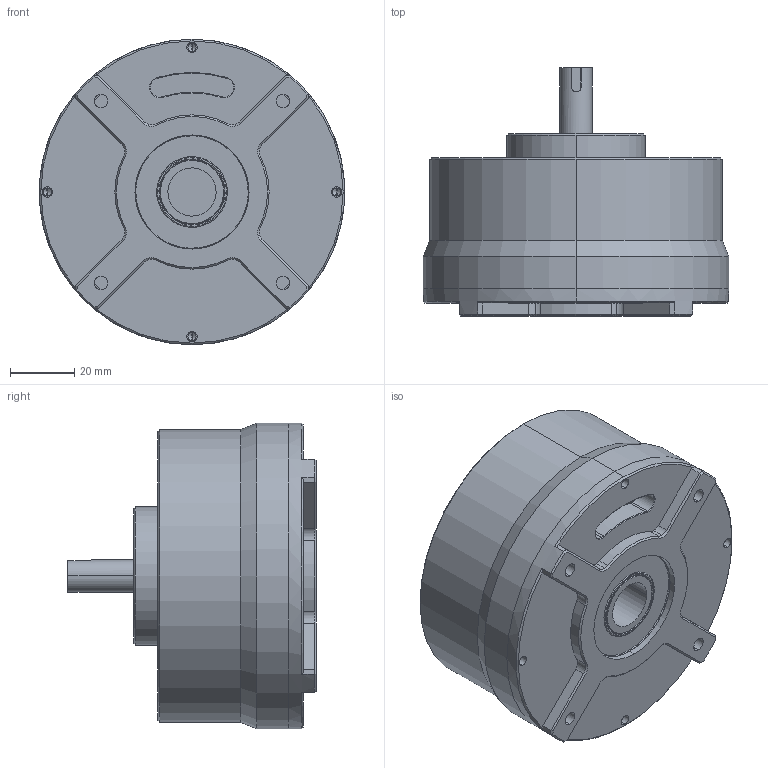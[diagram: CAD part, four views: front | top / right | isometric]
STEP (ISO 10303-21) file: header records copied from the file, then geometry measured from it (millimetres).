
FILE_DESCRIPTION (( 'STEP AP214' ), '1' );
FILE_NAME ('85蚾饜尨砩.STEP', '2025-03-25T07:09:32', ( '' ), ( '' ), 'SwSTEP 2.0', 'SolidWorks 2022', '' );
FILE_SCHEMA (( 'AUTOMOTIVE_DESIGN' ));
Length unit declared in the file: millimetre
Products named in the file (5): 8515扭力测试工装转轴; 8515扭力测试工装前盖; 轴承37x20x9-C0105000095; 8515扭力测试工装后盖; 85装配示意
Assembly tree (5 placements, depth 2):
  85装配示意
    8515扭力测试工装前盖
    轴承37x20x9-C0105000095  x2
    8515扭力测试工装后盖
    8515扭力测试工装转轴
Bounding box: 95 x 77.2 x 95 mm (x, y, z)
Volume: 145858 mm3; surface area: 74471.4 mm2
Topology: 5 solids, 5 shells, 323 faces, 792 edges, 494 vertices
Faces by surface type: cylinder 146, plane 85, cone 60, torus 32
Entity records: 9378 total; most frequent: DIRECTION 1706, CARTESIAN_POINT 1570, ORIENTED_EDGE 1460, EDGE_CURVE 730, AXIS2_PLACEMENT_3D 688, VERTEX_POINT 462, CIRCLE 383, EDGE_LOOP 358
